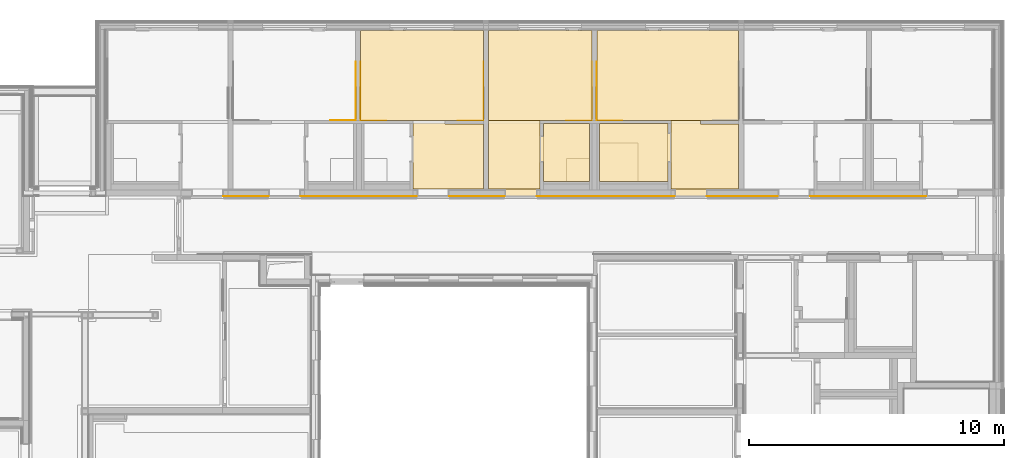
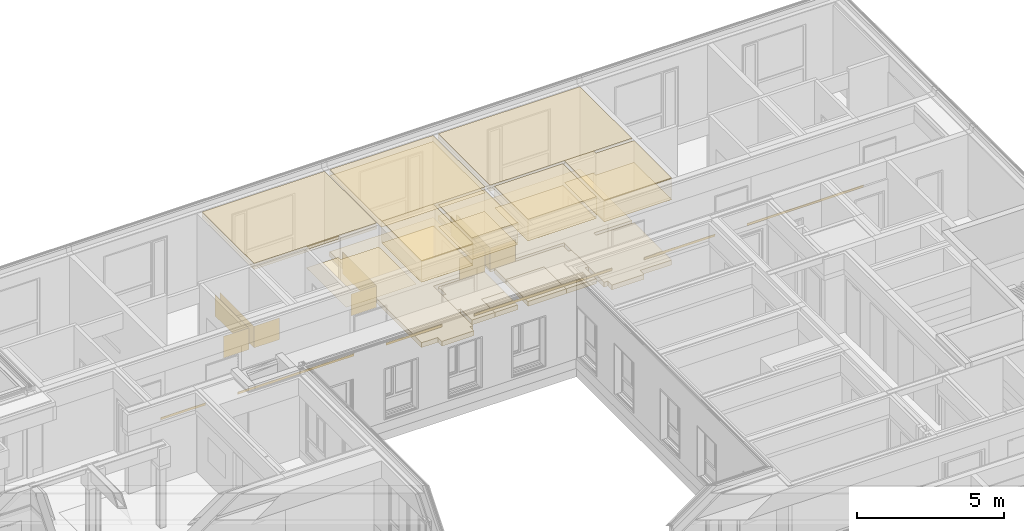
# One storey, part 189 of 207: 40 coverings.
"""IFC4 building model written with IfcOpenShell, lengths in metres."""

from ifc_helpers import new_model, entity, si_unit, converted_unit, derived_unit, frame, frame_2d, origin, origin_with_axes, place, context, subcontext, project, spatial, polyline, rectangle, outline, extrude, material, layer, layer_set, layer_usage, element, save


model = new_model("IFC4")

# Units and contexts
model_context = context("Model", 3, precision=1e-05, world=origin())
body_context = subcontext(model_context, "Body", "Model", "MODEL_VIEW")
ifc_project = project(units=[si_unit("LENGTHUNIT", "METRE"), si_unit("AREAUNIT", "SQUARE_METRE"), si_unit("VOLUMEUNIT", "CUBIC_METRE"), si_unit("MASSUNIT", "GRAM", prefix="KILO"), converted_unit("PLANEANGLEUNIT", "DEGREE", entity("IfcPlaneAngleMeasure", 0.0174532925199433), si_unit("PLANEANGLEUNIT", "RADIAN"), dimensions=[0, 0, 0, 0, 0, 0, 0]), derived_unit("THERMALTRANSMITTANCEUNIT", [(si_unit("POWERUNIT", "WATT"), 1), (si_unit("THERMODYNAMICTEMPERATUREUNIT", "KELVIN"), -1), (si_unit("LENGTHUNIT", "METRE"), -2)]), derived_unit("VOLUMETRICFLOWRATEUNIT", [(si_unit("LENGTHUNIT", "METRE"), 3), (converted_unit("TIMEUNIT", "hour", entity("IfcTimeMeasure", 3600.0), si_unit("TIMEUNIT", "SECOND"), dimensions=[0, 0, 1, 0, 0, 0, 0]), -1), (si_unit("LENGTHUNIT", "METRE"), -1)])], contexts=[model_context])

# Site, building, storey, space
site_placement = place(None, origin())
site = spatial("IfcSite", under=ifc_project, at=site_placement, Name="Psychiatrie Neubau Wunstorf", CompositionType="ELEMENT")
building_placement = place(site_placement, origin())
building = spatial("IfcBuilding", under=site, at=building_placement, Name="Neubau H2 Stationsgebäude", CompositionType="ELEMENT")
storey_placement = place(building_placement, frame((0.0, 0.0, -0.2)))
storey = spatial("IfcBuildingStorey", under=building, at=storey_placement, Name="H2 Ebene 0", CompositionType="ELEMENT", Elevation=-0.2)
space_1_placement = place(storey_placement, frame((74.055, 22.036, 0.0)))
space_1 = spatial("IfcSpace", under=storey, at=space_1_placement, Name="WUN-H2-E00-F09", CompositionType="ELEMENT")

# Covering
ifc_material_1 = material(Name="97")
ifc_layer_1 = layer(ifc_material_1, 0.001)
ifc_layer_set_1 = layer_set([ifc_layer_1])
ifc_layer_usage_1 = layer_usage(ifc_layer_set_1, "AXIS3", "POSITIVE", 0.0)
covering_1_placement = place(space_1_placement, frame((1.67000000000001, 3.08150000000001, 0.8)))
element("IfcCovering", 1, at=covering_1_placement, inside=space_1, material=ifc_layer_usage_1, Name="Handlauf", PredefinedType="CLADDING", context=body_context, shape_type="SweptSolid", body=[
    extrude(rectangle(XDim=1.765, YDim=0.1, at=frame_2d((-0.8825, 0.05), x_axis=(-1.0, 0.0))), frame((0.0, 0.0, 0.1), z_axis=(0.0, -1.0, 0.0), x_axis=(-1.0, 0.0, 0.0)), (0.0, 0.0, 1.0), 0.001),
    extrude(rectangle(XDim=0.1, YDim=5.4, at=frame_2d((-2.7, -0.05), x_axis=(0.0, -1.0))), frame((12.275, 0.0, 0.0), z_axis=(-3.36849889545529e-16, -1.0, -1.81898940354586e-14), x_axis=(-1.0, 3.36849889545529e-16, 0.0)), (0.0, 0.0, 1.0), 0.001),
    extrude(rectangle(XDim=0.1, YDim=2.78, at=frame_2d((-1.39, -0.05), x_axis=(0.0, -1.0))), frame((18.935, 0.0, 0.0), z_axis=(6.54312735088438e-16, -1.0, -5.45696821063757e-14), x_axis=(-1.0, -6.54312735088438e-16, 0.0)), (0.0, 0.0, 1.0), 0.001),
    extrude(rectangle(XDim=0.1, YDim=4.55, at=frame_2d((-2.275, -0.0500000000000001), x_axis=(0.0, -1.0))), frame((3.025, 0.0, 0.0), z_axis=(0.0, -1.0, 0.0), x_axis=(-1.0, 0.0, 0.0)), (0.0, 0.0, 1.0), 0.001),
    extrude(rectangle(XDim=0.1, YDim=4.55, at=frame_2d((-2.275, -0.05), x_axis=(0.0, -1.0))), frame((22.975, 0.0, 0.0), z_axis=(-3.99777890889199e-16, -1.0, -1.81898940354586e-14), x_axis=(-1.0, 3.99777890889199e-16, 0.0)), (0.0, 0.0, 1.0), 0.001),
    extrude(rectangle(XDim=0.1, YDim=2.18, at=frame_2d((-1.09, -0.05), x_axis=(0.0, -1.0))), frame((8.835, 0.0, 0.0), z_axis=(0.0, -1.0, 0.0), x_axis=(-1.0, 0.0, 0.0)), (0.0, 0.0, 1.0), 0.001),
])

# Space
space_2_placement = place(storey_placement, frame((90.45, 25.6995, 0.0)))
space_2 = spatial("IfcSpace", under=storey, at=space_2_placement, Name="WUN-H2-E00-072a", CompositionType="ELEMENT")

# Coverings
ifc_material_2 = material(Name="Fl1")
ifc_layer_2 = layer(ifc_material_2, 0.2)
ifc_layer_set_2 = layer_set([ifc_layer_2])
ifc_layer_usage_2 = layer_usage(ifc_layer_set_2, "AXIS3", "POSITIVE", 0.0)
covering_2_placement = place(space_2_placement, origin())
element("IfcCovering", 2, at=covering_2_placement, inside=space_2, material=ifc_layer_usage_2, Name="Fliesen", PredefinedType="FLOORING", context=body_context, shape_type="SweptSolid", body=[
    extrude(rectangle(XDim=0.125, YDim=1.135, at=frame_2d((-0.0625, -0.5675), x_axis=(-1.0, 0.0))), frame((2.8, 1.89000000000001, 0.0), z_axis=(0.0, 0.0, 1.0), x_axis=(1.0, 0.0, 0.0)), (0.0, 0.0, 1.0), 0.2),
    extrude(outline(polyline([(1.5, 0.0), (2.67499999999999, 0.0), (2.67500000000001, 2.26500000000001), (0.0, 2.26500000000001), (0.0, 1.5), (1.5, 1.5), (1.5, 0.0)])), origin_with_axes(), (0.0, 0.0, 1.0), 0.2),
])
ifc_material_3 = material(Name="Fl2")
ifc_layer_3 = layer(ifc_material_3, 0.2)
ifc_layer_set_3 = layer_set([ifc_layer_3])
ifc_layer_usage_3 = layer_usage(ifc_layer_set_3, "AXIS3", "POSITIVE", 0.0)
covering_3_placement = place(space_2_placement, origin())
element("IfcCovering", 3, at=covering_3_placement, inside=space_2, material=ifc_layer_usage_3, Name="Fliesen Mosaik", PredefinedType="FLOORING", context=body_context, shape_type="SweptSolid", body=[
    extrude(rectangle(XDim=1.5, YDim=1.5, at=frame_2d((0.75, 0.75), x_axis=(1.0, 0.0))), origin_with_axes(), (0.0, 0.0, 1.0), 0.2),
])
ifc_material_4 = material()
ifc_layer_4 = layer(ifc_material_4, 0.036)
ifc_layer_set_4 = layer_set([ifc_layer_4])
ifc_layer_usage_4 = layer_usage(ifc_layer_set_4, "AXIS3", "POSITIVE", 0.0)
covering_4_placement = place(space_2_placement, frame((0.0, 0.0, 3.6)))
element("IfcCovering", 4, at=covering_4_placement, inside=space_2, material=ifc_layer_usage_4, Name="Gipsfaserplatten 2-lagig (BSK)", PredefinedType="CEILING", context=body_context, shape_type="SweptSolid", body=[
    extrude(rectangle(XDim=2.675, YDim=2.26500000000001, at=frame_2d((1.33749999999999, 1.1325), x_axis=(1.0, 0.0))), frame((0.0, 2.26500000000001, 0.0), z_axis=(0.0, 0.0, -1.0), x_axis=(1.0, 0.0, 0.0)), (0.0, 0.0, 1.0), 0.036),
])
ifc_material_5 = material(Name="Installationshöhe")
ifc_layer_5 = layer(ifc_material_5, 0.764)
ifc_layer_set_5 = layer_set([ifc_layer_5])
ifc_layer_usage_5 = layer_usage(ifc_layer_set_5, "AXIS3", "POSITIVE", 0.0)
covering_5_placement = place(space_2_placement, frame((0.0, 0.0, 3.564)))
element("IfcCovering", 5, at=covering_5_placement, inside=space_2, material=ifc_layer_usage_5, Name="Gipsfaserplatten 2-lagig (BSK)", PredefinedType="CEILING", context=body_context, shape_type="SweptSolid", body=[
    extrude(rectangle(XDim=2.675, YDim=2.26500000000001, at=frame_2d((1.33749999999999, 1.1325), x_axis=(1.0, 0.0))), frame((0.0, 2.26500000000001, 0.0), z_axis=(0.0, 0.0, -1.0), x_axis=(1.0, 0.0, 0.0)), (0.0, 0.0, 1.0), 0.764),
])
ifc_material_6 = material(Name="B")
ifc_layer_6 = layer(ifc_material_6, 0.1)
ifc_layer_set_6 = layer_set([ifc_layer_6])
ifc_layer_usage_6 = layer_usage(ifc_layer_set_6, "AXIS3", "POSITIVE", 0.0)
covering_6_placement = place(space_2_placement, frame((0.0, 0.0, 2.8)))
element("IfcCovering", 6, at=covering_6_placement, inside=space_2, material=ifc_layer_usage_6, Name="Gipskarton, imprägniert", PredefinedType="CEILING", context=body_context, shape_type="SweptSolid", body=[
    extrude(rectangle(XDim=2.675, YDim=2.26500000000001, at=frame_2d((1.33749999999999, 1.1325), x_axis=(1.0, 0.0))), frame((0.0, 2.26500000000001, 0.0), z_axis=(0.0, 0.0, -1.0), x_axis=(1.0, 0.0, 0.0)), (0.0, 0.0, 1.0), 0.1),
])
ifc_material_7 = material(Name="D1")
ifc_layer_7 = layer(ifc_material_7, 0.001)
ifc_layer_set_7 = layer_set([ifc_layer_7])
ifc_layer_usage_7 = layer_usage(ifc_layer_set_7, "AXIS3", "POSITIVE", 0.0)
covering_7_placement = place(space_2_placement, frame((0.0, 0.0, 2.7)))
element("IfcCovering", 7, at=covering_7_placement, inside=space_2, material=ifc_layer_usage_7, Name="Gipsfaserplatten 2-lagig (BSK)", PredefinedType="CEILING", context=body_context, shape_type="SweptSolid", body=[
    extrude(rectangle(XDim=2.675, YDim=2.26500000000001, at=frame_2d((1.33749999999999, 1.1325), x_axis=(1.0, 0.0))), frame((0.0, 2.26500000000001, 0.0), z_axis=(0.0, 0.0, -1.0), x_axis=(1.0, 0.0, 0.0)), (0.0, 0.0, 1.0), 0.001),
])

# Space
space_3_placement = place(storey_placement, frame((88.25, 25.6995, 0.0)))
space_3 = spatial("IfcSpace", under=storey, at=space_3_placement, Name="WUN-H2-E00-071a", CompositionType="ELEMENT")

# Coverings
ifc_material_8 = material(Name="Fl1")
ifc_layer_8 = layer(ifc_material_8, 0.2)
ifc_layer_set_8 = layer_set([ifc_layer_8])
ifc_layer_usage_8 = layer_usage(ifc_layer_set_8, "AXIS3", "POSITIVE", 0.0)
covering_8_placement = place(space_3_placement, frame((-0.124999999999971, 0.0, 0.0)))
element("IfcCovering", 8, at=covering_8_placement, inside=space_3, material=ifc_layer_usage_8, Name="Fliesen", PredefinedType="FLOORING", context=body_context, shape_type="SweptSolid", body=[
    extrude(rectangle(XDim=0.125, YDim=1.01, at=frame_2d((0.0625, 0.505), x_axis=(1.0, 0.0))), frame((0.0, 0.755000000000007, 0.0), z_axis=(0.0, 0.0, 1.0), x_axis=(1.0, 0.0, 0.0)), (0.0, 0.0, 1.0), 0.2),
    extrude(outline(polyline([(0.0, 0.0), (0.900000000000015, 0.0), (0.900000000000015, 0.900000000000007), (1.80000000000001, 0.900000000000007), (1.80000000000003, 2.26500000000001), (0.0, 2.26500000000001), (0.0, 0.0)])), frame((0.124999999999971, 0.0, 0.0), z_axis=(0.0, 0.0, 1.0), x_axis=(1.0, 0.0, 0.0)), (0.0, 0.0, 1.0), 0.2),
])
ifc_material_9 = material(Name="Fl2")
ifc_layer_9 = layer(ifc_material_9, 0.2)
ifc_layer_set_9 = layer_set([ifc_layer_9])
ifc_layer_usage_9 = layer_usage(ifc_layer_set_9, "AXIS3", "POSITIVE", 0.0)
covering_9_placement = place(space_3_placement, frame((0.900000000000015, 0.0, 0.0)))
element("IfcCovering", 9, at=covering_9_placement, inside=space_3, material=ifc_layer_usage_9, Name="Fliesen Mosaik", PredefinedType="FLOORING", context=body_context, shape_type="SweptSolid", body=[
    extrude(rectangle(XDim=0.9, YDim=0.9, at=frame_2d((-0.45, 0.45), x_axis=(0.0, 1.0))), frame((0.9, 0.0, 0.0), z_axis=(0.0, 0.0, 1.0), x_axis=(1.0, 0.0, 0.0)), (0.0, 0.0, 1.0), 0.2),
])
ifc_material_10 = material()
ifc_layer_10 = layer(ifc_material_10, 0.036)
ifc_layer_set_10 = layer_set([ifc_layer_10])
ifc_layer_usage_10 = layer_usage(ifc_layer_set_10, "AXIS3", "POSITIVE", 0.0)
covering_10_placement = place(space_3_placement, frame((0.0, 0.0, 3.6)))
element("IfcCovering", 10, at=covering_10_placement, inside=space_3, material=ifc_layer_usage_10, Name="Gipsfaserplatten 2-lagig (BSK)", PredefinedType="CEILING", context=body_context, shape_type="SweptSolid", body=[
    extrude(rectangle(XDim=1.8, YDim=2.26500000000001, at=frame_2d((0.899999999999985, 1.1325), x_axis=(1.0, 0.0))), frame((0.0, 2.26500000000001, 0.0), z_axis=(0.0, 0.0, -1.0), x_axis=(1.0, 0.0, 0.0)), (0.0, 0.0, 1.0), 0.036),
])
ifc_material_11 = material(Name="Installationshöhe")
ifc_layer_11 = layer(ifc_material_11, 0.764)
ifc_layer_set_11 = layer_set([ifc_layer_11])
ifc_layer_usage_11 = layer_usage(ifc_layer_set_11, "AXIS3", "POSITIVE", 0.0)
covering_11_placement = place(space_3_placement, frame((0.0, 0.0, 3.564)))
element("IfcCovering", 11, at=covering_11_placement, inside=space_3, material=ifc_layer_usage_11, Name="Gipsfaserplatten 2-lagig (BSK)", PredefinedType="CEILING", context=body_context, shape_type="SweptSolid", body=[
    extrude(rectangle(XDim=1.8, YDim=2.26500000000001, at=frame_2d((0.899999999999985, 1.1325), x_axis=(1.0, 0.0))), frame((0.0, 2.26500000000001, 0.0), z_axis=(0.0, 0.0, -1.0), x_axis=(1.0, 0.0, 0.0)), (0.0, 0.0, 1.0), 0.764),
])
ifc_material_12 = material(Name="B")
ifc_layer_12 = layer(ifc_material_12, 0.1)
ifc_layer_set_12 = layer_set([ifc_layer_12])
ifc_layer_usage_12 = layer_usage(ifc_layer_set_12, "AXIS3", "POSITIVE", 0.0)
covering_12_placement = place(space_3_placement, frame((0.0, 0.0, 2.8)))
element("IfcCovering", 12, at=covering_12_placement, inside=space_3, material=ifc_layer_usage_12, Name="Gipskarton, imprägniert", PredefinedType="CEILING", context=body_context, shape_type="SweptSolid", body=[
    extrude(rectangle(XDim=1.8, YDim=2.26500000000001, at=frame_2d((0.899999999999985, 1.1325), x_axis=(1.0, 0.0))), frame((0.0, 2.26500000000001, 0.0), z_axis=(0.0, 0.0, -1.0), x_axis=(1.0, 0.0, 0.0)), (0.0, 0.0, 1.0), 0.1),
])
ifc_material_13 = material(Name="D1")
ifc_layer_13 = layer(ifc_material_13, 0.001)
ifc_layer_set_13 = layer_set([ifc_layer_13])
ifc_layer_usage_13 = layer_usage(ifc_layer_set_13, "AXIS3", "POSITIVE", 0.0)
covering_13_placement = place(space_3_placement, frame((0.0, 0.0, 2.7)))
element("IfcCovering", 13, at=covering_13_placement, inside=space_3, material=ifc_layer_usage_13, Name="Gipsfaserplatten 2-lagig (BSK)", PredefinedType="CEILING", context=body_context, shape_type="SweptSolid", body=[
    extrude(rectangle(XDim=1.8, YDim=2.26500000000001, at=frame_2d((0.899999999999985, 1.1325), x_axis=(1.0, 0.0))), frame((0.0, 2.26500000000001, 0.0), z_axis=(0.0, 0.0, -1.0), x_axis=(1.0, 0.0, 0.0)), (0.0, 0.0, 1.0), 0.001),
])

# Space
space_4_placement = place(storey_placement, frame((76.1, 25.3895, 0.0)))
space_4 = spatial("IfcSpace", under=storey, at=space_4_placement, Name="WUN-H2-E00-069", CompositionType="ELEMENT")

# Covering
ifc_material_14 = material(Name="84")
ifc_layer_14 = layer(ifc_material_14, 0.001)
ifc_layer_set_14 = layer_set([ifc_layer_14])
ifc_layer_usage_14 = layer_usage(ifc_layer_set_14, "AXIS3", "POSITIVE", 0.0)
covering_14_placement = place(space_4_placement, frame((3.8, 2.69999999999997, 0.1)))
element("IfcCovering", 14, at=covering_14_placement, inside=space_4, material=ifc_layer_usage_14, Name="Acrobyn", PredefinedType="CLADDING", context=body_context, shape_type="SweptSolid", body=[
    extrude(rectangle(XDim=0.9, YDim=2.3, at=frame_2d((-1.15, -0.45), x_axis=(0.0, -1.0))), frame((1.0, 2.3, 0.0), z_axis=(-1.0, 0.0, 0.0), x_axis=(0.0, 1.0, 0.0)), (0.0, 0.0, 1.0), 0.001),
    extrude(rectangle(XDim=0.9, YDim=1.0, at=frame_2d((-0.5, -0.45), x_axis=(0.0, -1.0))), frame((1.0, 0.0, 0.0), z_axis=(0.0, 1.0, 0.0), x_axis=(1.0, 0.0, 0.0)), (0.0, 0.0, 1.0), 0.001),
])

# Space
space_5_placement = place(storey_placement, frame((81.1, 25.3895, 0.0)))
space_5 = spatial("IfcSpace", under=storey, at=space_5_placement, Name="WUN-H2-E00-070", CompositionType="ELEMENT")

# Coverings
ifc_material_15 = material(Name="84")
ifc_layer_15 = layer(ifc_material_15, 0.001)
ifc_layer_set_15 = layer_set([ifc_layer_15])
ifc_layer_usage_15 = layer_usage(ifc_layer_set_15, "AXIS3", "POSITIVE", 0.0)
covering_15_placement = place(space_5_placement, frame((0.0, 2.69999999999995, 0.1)))
element("IfcCovering", 15, at=covering_15_placement, inside=space_5, material=ifc_layer_usage_15, Name="Acrobyn", PredefinedType="CLADDING", context=body_context, shape_type="SweptSolid", body=[
    extrude(rectangle(XDim=2.3, YDim=0.9, at=frame_2d((1.15, -0.45), x_axis=(1.0, 0.0))), frame((0.0, 2.3, 0.0), z_axis=(1.0, 0.0, 0.0), x_axis=(0.0, -1.0, 0.0)), (0.0, 0.0, 1.0), 0.001),
    extrude(rectangle(XDim=1.0, YDim=0.9, at=frame_2d((0.5, -0.45), x_axis=(1.0, 0.0))), frame((0.0, 0.0, 0.0), z_axis=(0.0, 1.0, 0.0), x_axis=(1.0, 0.0, 0.0)), (0.0, 0.0, 1.0), 0.001),
])
ifc_material_16 = material(Name="84")
ifc_layer_16 = layer(ifc_material_16, 0.001)
ifc_layer_set_16 = layer_set([ifc_layer_16])
ifc_layer_usage_16 = layer_usage(ifc_layer_set_16, "AXIS3", "POSITIVE", 0.0)
covering_16_placement = place(space_5_placement, frame((3.79999999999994, 2.69999999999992, 0.1)))
element("IfcCovering", 16, at=covering_16_placement, inside=space_5, material=ifc_layer_usage_16, Name="Acrobyn", PredefinedType="CLADDING", context=body_context, shape_type="SweptSolid", body=[
    extrude(rectangle(XDim=0.9, YDim=2.3, at=frame_2d((-1.15, -0.45), x_axis=(0.0, -1.0))), frame((1.0, 2.3, 0.0), z_axis=(-1.0, 0.0, 0.0), x_axis=(0.0, 1.0, 0.0)), (0.0, 0.0, 1.0), 0.001),
    extrude(rectangle(XDim=0.9, YDim=1.0, at=frame_2d((-0.5, -0.45), x_axis=(0.0, -1.0))), frame((1.0, 0.0, 0.0), z_axis=(0.0, 1.0, 0.0), x_axis=(1.0, 0.0, 0.0)), (0.0, 0.0, 1.0), 0.001),
])
ifc_material_17 = material(Name="D1")
ifc_layer_17 = layer(ifc_material_17, 0.001)
ifc_layer_set_17 = layer_set([ifc_layer_17])
ifc_layer_usage_17 = layer_usage(ifc_layer_set_17, "AXIS3", "POSITIVE", 0.0)
covering_17_placement = place(space_5_placement, frame((2.05, 0.0, 2.7)))
element("IfcCovering", 17, at=covering_17_placement, inside=space_5, material=ifc_layer_usage_17, Name="Gipsfaserplatten 2-lagig (BSK)", PredefinedType="CEILING", context=body_context, shape_type="SweptSolid", body=[
    extrude(outline(polyline([(2.75, 2.69999999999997), (0.0, 2.69999999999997), (0.0, 0.0), (1.24999999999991, 0.0), (1.24999999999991, 0.149999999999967), (2.74999999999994, 0.149999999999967), (2.75, 2.69999999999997)])), frame((0.0, 2.69999999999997, 0.0), z_axis=(0.0, 0.0, -1.0), x_axis=(1.0, 0.0, 0.0)), (0.0, 0.0, 1.0), 0.001),
])
ifc_material_18 = material()
ifc_layer_18 = layer(ifc_material_18, 0.036)
ifc_layer_set_18 = layer_set([ifc_layer_18])
ifc_layer_usage_18 = layer_usage(ifc_layer_set_18, "AXIS3", "POSITIVE", 0.0)
covering_18_placement = place(space_5_placement, frame((0.0, 2.69999999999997, 3.6)))
element("IfcCovering", 18, at=covering_18_placement, inside=space_5, material=ifc_layer_usage_18, Name="Gipsfaserplatten 2-lagig (BSK)", PredefinedType="CEILING", context=body_context, shape_type="SweptSolid", body=[
    extrude(rectangle(XDim=4.79999999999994, YDim=3.52450000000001, at=frame_2d((-2.39999999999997, -1.76224999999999), x_axis=(-1.0, 6.82121026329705e-15))), frame((4.79999999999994, 0.0, 0.0), z_axis=(0.0, 0.0, -1.0), x_axis=(1.0, 0.0, 0.0)), (0.0, 0.0, 1.0), 0.036),
])
ifc_material_19 = material(Name="Installationshöhe")
ifc_layer_19 = layer(ifc_material_19, 0.114)
ifc_layer_set_19 = layer_set([ifc_layer_19])
ifc_layer_usage_19 = layer_usage(ifc_layer_set_19, "AXIS3", "POSITIVE", 0.0)
covering_19_placement = place(space_5_placement, frame((0.0, 2.69999999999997, 3.564)))
element("IfcCovering", 19, at=covering_19_placement, inside=space_5, material=ifc_layer_usage_19, Name="Gipsfaserplatten 2-lagig (BSK)", PredefinedType="CEILING", context=body_context, shape_type="SweptSolid", body=[
    extrude(rectangle(XDim=4.79999999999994, YDim=3.52450000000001, at=frame_2d((-2.39999999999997, -1.76224999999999), x_axis=(-1.0, 6.82121026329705e-15))), frame((4.79999999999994, 0.0, 0.0), z_axis=(0.0, 0.0, -1.0), x_axis=(1.0, 0.0, 0.0)), (0.0, 0.0, 1.0), 0.114),
])
ifc_material_20 = material(Name="A1")
ifc_layer_20 = layer(ifc_material_20, 0.1)
ifc_layer_set_20 = layer_set([ifc_layer_20])
ifc_layer_usage_20 = layer_usage(ifc_layer_set_20, "AXIS3", "POSITIVE", 0.0)
covering_20_placement = place(space_5_placement, frame((0.0, 2.69999999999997, 3.45)))
element("IfcCovering", 20, at=covering_20_placement, inside=space_5, material=ifc_layer_usage_20, Name="Gipsfaserplatten 2-lagig (BSK)", PredefinedType="CEILING", context=body_context, shape_type="SweptSolid", body=[
    extrude(rectangle(XDim=4.79999999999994, YDim=3.52450000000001, at=frame_2d((-2.39999999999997, -1.76224999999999), x_axis=(-1.0, 6.82121026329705e-15))), frame((4.79999999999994, 0.0, 0.0), z_axis=(0.0, 0.0, -1.0), x_axis=(1.0, 0.0, 0.0)), (0.0, 0.0, 1.0), 0.1),
])
ifc_material_21 = material(Name="D1")
ifc_layer_21 = layer(ifc_material_21, 0.001)
ifc_layer_set_21 = layer_set([ifc_layer_21])
ifc_layer_usage_21 = layer_usage(ifc_layer_set_21, "AXIS3", "POSITIVE", 0.0)
covering_21_placement = place(space_5_placement, frame((0.0, 2.69999999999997, 3.35)))
element("IfcCovering", 21, at=covering_21_placement, inside=space_5, material=ifc_layer_usage_21, Name="Gipsfaserplatten 2-lagig (BSK)", PredefinedType="CEILING", context=body_context, shape_type="SweptSolid", body=[
    extrude(rectangle(XDim=4.79999999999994, YDim=3.52450000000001, at=frame_2d((-2.39999999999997, -1.76224999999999), x_axis=(-1.0, 6.82121026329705e-15))), frame((4.79999999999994, 0.0, 0.0), z_axis=(0.0, 0.0, -1.0), x_axis=(1.0, 0.0, 0.0)), (0.0, 0.0, 1.0), 0.001),
])

# Space
space_6_placement = place(storey_placement, frame((86.1, 25.3895, 0.0)))
space_6 = spatial("IfcSpace", under=storey, at=space_6_placement, Name="WUN-H2-E00-071", CompositionType="ELEMENT")

# Coverings
ifc_material_22 = material(Name="84")
ifc_layer_22 = layer(ifc_material_22, 0.001)
ifc_layer_set_22 = layer_set([ifc_layer_22])
ifc_layer_usage_22 = layer_usage(ifc_layer_set_22, "AXIS3", "POSITIVE", 0.0)
covering_22_placement = place(space_6_placement, frame((3.05, 2.69999999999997, 0.1)))
element("IfcCovering", 22, at=covering_22_placement, inside=space_6, material=ifc_layer_usage_22, Name="Acrobyn", PredefinedType="CLADDING", context=body_context, shape_type="SweptSolid", body=[
    extrude(rectangle(XDim=0.9, YDim=2.3, at=frame_2d((-1.15, -0.45), x_axis=(0.0, -1.0))), frame((1.0, 2.3, 0.0), z_axis=(-1.0, 0.0, 0.0), x_axis=(0.0, 1.0, 0.0)), (0.0, 0.0, 1.0), 0.001),
    extrude(rectangle(XDim=0.9, YDim=1.0, at=frame_2d((-0.5, -0.45), x_axis=(0.0, -1.0))), frame((1.0, 0.0, 0.0), z_axis=(0.0, 1.0, 0.0), x_axis=(1.0, 0.0, 0.0)), (0.0, 0.0, 1.0), 0.001),
])
ifc_material_23 = material(Name="Ku1")
ifc_layer_23 = layer(ifc_material_23, 0.2)
ifc_layer_set_23 = layer_set([ifc_layer_23])
ifc_layer_usage_23 = layer_usage(ifc_layer_set_23, "AXIS3", "POSITIVE", 0.0)
covering_23_placement = place(space_6_placement, frame((0.0, -0.272000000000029, 0.0)))
element("IfcCovering", 23, at=covering_23_placement, inside=space_6, material=ifc_layer_usage_23, Name="PVC Bahnenware Holzoptik", PredefinedType="FLOORING", context=body_context, shape_type="SweptSolid", body=[
    extrude(rectangle(XDim=0.272, YDim=1.26, at=frame_2d((0.63, -0.136), x_axis=(0.0, -1.0))), frame((0.64, 0.272, 0.0), z_axis=(0.0, 0.0, 1.0), x_axis=(1.0, 0.0, 0.0)), (0.0, 0.0, 1.0), 0.2),
    extrude(outline(polyline([(2.025, 2.69999999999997), (4.05, 2.69999999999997), (4.05, 6.22449999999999), (0.0, 6.22449999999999), (0.0, 0.0), (2.02499999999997, 0.0), (2.025, 2.69999999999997)])), frame((0.0, 0.272000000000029, 0.0), z_axis=(0.0, 0.0, 1.0), x_axis=(1.0, 0.0, 0.0)), (0.0, 0.0, 1.0), 0.2),
])
ifc_material_24 = material()
ifc_layer_24 = layer(ifc_material_24, 0.036)
ifc_layer_set_24 = layer_set([ifc_layer_24])
ifc_layer_usage_24 = layer_usage(ifc_layer_set_24, "AXIS3", "POSITIVE", 0.0)
covering_24_placement = place(space_6_placement, frame((0.0, 2.69999999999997, 3.6)))
element("IfcCovering", 24, at=covering_24_placement, inside=space_6, material=ifc_layer_usage_24, Name="Gipsfaserplatten 2-lagig (BSK)", PredefinedType="CEILING", context=body_context, shape_type="SweptSolid", body=[
    extrude(rectangle(XDim=4.05, YDim=3.52450000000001, at=frame_2d((-2.025, -1.76225000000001), x_axis=(-1.0, 0.0))), frame((4.05, 0.0, 0.0), z_axis=(0.0, 0.0, -1.0), x_axis=(1.0, 0.0, 0.0)), (0.0, 0.0, 1.0), 0.036),
])
ifc_material_25 = material(Name="Installationshöhe")
ifc_layer_25 = layer(ifc_material_25, 0.114)
ifc_layer_set_25 = layer_set([ifc_layer_25])
ifc_layer_usage_25 = layer_usage(ifc_layer_set_25, "AXIS3", "POSITIVE", 0.0)
covering_25_placement = place(space_6_placement, frame((0.0, 2.69999999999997, 3.564)))
element("IfcCovering", 25, at=covering_25_placement, inside=space_6, material=ifc_layer_usage_25, Name="Gipsfaserplatten 2-lagig (BSK)", PredefinedType="CEILING", context=body_context, shape_type="SweptSolid", body=[
    extrude(rectangle(XDim=4.05, YDim=3.52450000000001, at=frame_2d((-2.025, -1.76225000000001), x_axis=(-1.0, 0.0))), frame((4.05, 0.0, 0.0), z_axis=(0.0, 0.0, -1.0), x_axis=(1.0, 0.0, 0.0)), (0.0, 0.0, 1.0), 0.114),
])
ifc_material_26 = material(Name="A1")
ifc_layer_26 = layer(ifc_material_26, 0.1)
ifc_layer_set_26 = layer_set([ifc_layer_26])
ifc_layer_usage_26 = layer_usage(ifc_layer_set_26, "AXIS3", "POSITIVE", 0.0)
covering_26_placement = place(space_6_placement, frame((0.0, 2.69999999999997, 3.45)))
element("IfcCovering", 26, at=covering_26_placement, inside=space_6, material=ifc_layer_usage_26, Name="Gipsfaserplatten 2-lagig (BSK)", PredefinedType="CEILING", context=body_context, shape_type="SweptSolid", body=[
    extrude(rectangle(XDim=4.05, YDim=3.52450000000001, at=frame_2d((-2.025, -1.76225000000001), x_axis=(-1.0, 0.0))), frame((4.05, 0.0, 0.0), z_axis=(0.0, 0.0, -1.0), x_axis=(1.0, 0.0, 0.0)), (0.0, 0.0, 1.0), 0.1),
])
ifc_material_27 = material(Name="D1")
ifc_layer_27 = layer(ifc_material_27, 0.001)
ifc_layer_set_27 = layer_set([ifc_layer_27])
ifc_layer_usage_27 = layer_usage(ifc_layer_set_27, "AXIS3", "POSITIVE", 0.0)
covering_27_placement = place(space_6_placement, frame((0.0, 2.69999999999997, 3.35)))
element("IfcCovering", 27, at=covering_27_placement, inside=space_6, material=ifc_layer_usage_27, Name="Gipsfaserplatten 2-lagig (BSK)", PredefinedType="CEILING", context=body_context, shape_type="SweptSolid", body=[
    extrude(rectangle(XDim=4.05, YDim=3.52450000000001, at=frame_2d((-2.025, -1.76225000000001), x_axis=(-1.0, 0.0))), frame((4.05, 0.0, 0.0), z_axis=(0.0, 0.0, -1.0), x_axis=(1.0, 0.0, 0.0)), (0.0, 0.0, 1.0), 0.001),
])
ifc_material_28 = material()
ifc_layer_28 = layer(ifc_material_28, 0.036)
ifc_layer_set_28 = layer_set([ifc_layer_28])
ifc_layer_usage_28 = layer_usage(ifc_layer_set_28, "AXIS3", "POSITIVE", 0.0)
covering_28_placement = place(space_6_placement, frame((0.0, 0.0, 3.6)))
element("IfcCovering", 28, at=covering_28_placement, inside=space_6, material=ifc_layer_usage_28, Name="Gipsfaserplatten 2-lagig (BSK)", PredefinedType="CEILING", context=body_context, shape_type="SweptSolid", body=[
    extrude(rectangle(XDim=2.025, YDim=2.69999999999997, at=frame_2d((1.0125, 1.34999999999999), x_axis=(1.0, 0.0))), frame((0.0, 2.69999999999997, 0.0), z_axis=(0.0, 0.0, -1.0), x_axis=(1.0, 0.0, 0.0)), (0.0, 0.0, 1.0), 0.036),
])
ifc_material_29 = material(Name="Installationshöhe")
ifc_layer_29 = layer(ifc_material_29, 0.764)
ifc_layer_set_29 = layer_set([ifc_layer_29])
ifc_layer_usage_29 = layer_usage(ifc_layer_set_29, "AXIS3", "POSITIVE", 0.0)
covering_29_placement = place(space_6_placement, frame((0.0, 0.0, 3.564)))
element("IfcCovering", 29, at=covering_29_placement, inside=space_6, material=ifc_layer_usage_29, Name="Gipsfaserplatten 2-lagig (BSK)", PredefinedType="CEILING", context=body_context, shape_type="SweptSolid", body=[
    extrude(rectangle(XDim=2.025, YDim=2.69999999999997, at=frame_2d((1.0125, 1.34999999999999), x_axis=(1.0, 0.0))), frame((0.0, 2.69999999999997, 0.0), z_axis=(0.0, 0.0, -1.0), x_axis=(1.0, 0.0, 0.0)), (0.0, 0.0, 1.0), 0.764),
])
ifc_material_30 = material(Name="A1")
ifc_layer_30 = layer(ifc_material_30, 0.1)
ifc_layer_set_30 = layer_set([ifc_layer_30])
ifc_layer_usage_30 = layer_usage(ifc_layer_set_30, "AXIS3", "POSITIVE", 0.0)
covering_30_placement = place(space_6_placement, frame((0.0, 0.0, 2.8)))
element("IfcCovering", 30, at=covering_30_placement, inside=space_6, material=ifc_layer_usage_30, Name="Gipsfaserplatten 2-lagig (BSK)", PredefinedType="CEILING", context=body_context, shape_type="SweptSolid", body=[
    extrude(rectangle(XDim=2.025, YDim=2.69999999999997, at=frame_2d((1.0125, 1.34999999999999), x_axis=(1.0, 0.0))), frame((0.0, 2.69999999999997, 0.0), z_axis=(0.0, 0.0, -1.0), x_axis=(1.0, 0.0, 0.0)), (0.0, 0.0, 1.0), 0.1),
])
ifc_material_31 = material(Name="D1")
ifc_layer_31 = layer(ifc_material_31, 0.001)
ifc_layer_set_31 = layer_set([ifc_layer_31])
ifc_layer_usage_31 = layer_usage(ifc_layer_set_31, "AXIS3", "POSITIVE", 0.0)
covering_31_placement = place(space_6_placement, frame((0.0, 0.0, 2.7)))
element("IfcCovering", 31, at=covering_31_placement, inside=space_6, material=ifc_layer_usage_31, Name="Gipsfaserplatten 2-lagig (BSK)", PredefinedType="CEILING", context=body_context, shape_type="SweptSolid", body=[
    extrude(rectangle(XDim=2.025, YDim=2.69999999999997, at=frame_2d((1.0125, 1.34999999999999), x_axis=(1.0, 0.0))), frame((0.0, 2.69999999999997, 0.0), z_axis=(0.0, 0.0, -1.0), x_axis=(1.0, 0.0, 0.0)), (0.0, 0.0, 1.0), 0.001),
])

# Space
space_7_placement = place(storey_placement, frame((90.35, 25.3895, 0.0)))
space_7 = spatial("IfcSpace", under=storey, at=space_7_placement, Name="WUN-H2-E00-072", CompositionType="ELEMENT")

# Coverings
ifc_material_32 = material(Name="84")
ifc_layer_32 = layer(ifc_material_32, 0.001)
ifc_layer_set_32 = layer_set([ifc_layer_32])
ifc_layer_usage_32 = layer_usage(ifc_layer_set_32, "AXIS3", "POSITIVE", 0.0)
covering_32_placement = place(space_7_placement, frame((0.0, 2.69999999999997, 0.1)))
element("IfcCovering", 32, at=covering_32_placement, inside=space_7, material=ifc_layer_usage_32, Name="Acrobyn", PredefinedType="CLADDING", context=body_context, shape_type="SweptSolid", body=[
    extrude(rectangle(XDim=2.3, YDim=0.9, at=frame_2d((1.15, -0.45), x_axis=(1.0, 0.0))), frame((0.0, 2.3, 0.0), z_axis=(1.0, 0.0, 0.0), x_axis=(0.0, -1.0, 0.0)), (0.0, 0.0, 1.0), 0.001),
    extrude(rectangle(XDim=1.0, YDim=0.9, at=frame_2d((0.5, -0.45), x_axis=(1.0, 0.0))), frame((0.0, 0.0, 0.0), z_axis=(0.0, 1.0, 0.0), x_axis=(1.0, 0.0, 0.0)), (0.0, 0.0, 1.0), 0.001),
])
ifc_material_33 = material(Name="Ku1")
ifc_layer_33 = layer(ifc_material_33, 0.2)
ifc_layer_set_33 = layer_set([ifc_layer_33])
ifc_layer_usage_33 = layer_usage(ifc_layer_set_33, "AXIS3", "POSITIVE", 0.0)
covering_33_placement = place(space_7_placement, frame((0.0, -0.272000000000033, 0.0)))
element("IfcCovering", 33, at=covering_33_placement, inside=space_7, material=ifc_layer_usage_33, Name="PVC Bahnenware Holzoptik", PredefinedType="FLOORING", context=body_context, shape_type="SweptSolid", body=[
    extrude(rectangle(XDim=0.272, YDim=1.26, at=frame_2d((0.63, -0.136), x_axis=(0.0, -1.0))), frame((3.05, 0.272, 0.0), z_axis=(0.0, 0.0, 1.0), x_axis=(1.0, 0.0, 0.0)), (0.0, 0.0, 1.0), 0.2),
    extrude(outline(polyline([(2.9, 0.0), (5.54999999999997, 0.0), (5.54999999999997, 2.55), (4.04999999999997, 2.55), (4.04999999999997, 2.7), (5.54999999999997, 2.7), (5.55, 6.22449999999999), (0.0, 6.22449999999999), (0.0, 2.69999999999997), (2.9, 2.69999999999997), (2.9, 0.0)])), frame((0.0, 0.272000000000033, 0.0), z_axis=(0.0, 0.0, 1.0), x_axis=(1.0, 0.0, 0.0)), (0.0, 0.0, 1.0), 0.2),
])
ifc_material_34 = material()
ifc_layer_34 = layer(ifc_material_34, 0.036)
ifc_layer_set_34 = layer_set([ifc_layer_34])
ifc_layer_usage_34 = layer_usage(ifc_layer_set_34, "AXIS3", "POSITIVE", 0.0)
covering_34_placement = place(space_7_placement, frame((0.0, 2.69999999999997, 3.6)))
element("IfcCovering", 34, at=covering_34_placement, inside=space_7, material=ifc_layer_usage_34, Name="Gipsfaserplatten 2-lagig (BSK)", PredefinedType="CEILING", context=body_context, shape_type="SweptSolid", body=[
    extrude(rectangle(XDim=3.52450000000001, YDim=5.55, at=frame_2d((2.775, -1.76225000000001), x_axis=(0.0, -1.0))), frame((0.0, 0.0, 0.0), z_axis=(0.0, 0.0, -1.0), x_axis=(1.0, 0.0, 0.0)), (0.0, 0.0, 1.0), 0.036),
])
ifc_material_35 = material(Name="Installationshöhe")
ifc_layer_35 = layer(ifc_material_35, 0.114)
ifc_layer_set_35 = layer_set([ifc_layer_35])
ifc_layer_usage_35 = layer_usage(ifc_layer_set_35, "AXIS3", "POSITIVE", 0.0)
covering_35_placement = place(space_7_placement, frame((0.0, 2.69999999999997, 3.564)))
element("IfcCovering", 35, at=covering_35_placement, inside=space_7, material=ifc_layer_usage_35, Name="Gipsfaserplatten 2-lagig (BSK)", PredefinedType="CEILING", context=body_context, shape_type="SweptSolid", body=[
    extrude(rectangle(XDim=3.52450000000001, YDim=5.55, at=frame_2d((2.775, -1.76225000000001), x_axis=(0.0, -1.0))), frame((0.0, 0.0, 0.0), z_axis=(0.0, 0.0, -1.0), x_axis=(1.0, 0.0, 0.0)), (0.0, 0.0, 1.0), 0.114),
])
ifc_material_36 = material(Name="A1")
ifc_layer_36 = layer(ifc_material_36, 0.1)
ifc_layer_set_36 = layer_set([ifc_layer_36])
ifc_layer_usage_36 = layer_usage(ifc_layer_set_36, "AXIS3", "POSITIVE", 0.0)
covering_36_placement = place(space_7_placement, frame((0.0, 2.69999999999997, 3.45)))
element("IfcCovering", 36, at=covering_36_placement, inside=space_7, material=ifc_layer_usage_36, Name="Gipsfaserplatten 2-lagig (BSK)", PredefinedType="CEILING", context=body_context, shape_type="SweptSolid", body=[
    extrude(rectangle(XDim=3.52450000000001, YDim=5.55, at=frame_2d((2.775, -1.76225000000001), x_axis=(0.0, -1.0))), frame((0.0, 0.0, 0.0), z_axis=(0.0, 0.0, -1.0), x_axis=(1.0, 0.0, 0.0)), (0.0, 0.0, 1.0), 0.1),
])
ifc_material_37 = material()
ifc_layer_37 = layer(ifc_material_37, 0.036)
ifc_layer_set_37 = layer_set([ifc_layer_37])
ifc_layer_usage_37 = layer_usage(ifc_layer_set_37, "AXIS3", "POSITIVE", 0.0)
covering_37_placement = place(space_7_placement, frame((2.9, 0.0, 3.6)))
element("IfcCovering", 37, at=covering_37_placement, inside=space_7, material=ifc_layer_usage_37, Name="Gipsfaserplatten 2-lagig (BSK)", PredefinedType="CEILING", context=body_context, shape_type="SweptSolid", body=[
    extrude(outline(polyline([(2.65, 2.69999999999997), (0.0, 2.69999999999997), (0.0, 0.0), (1.14999999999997, 0.0), (1.14999999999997, 0.149999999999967), (2.64999999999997, 0.149999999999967), (2.65, 2.69999999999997)])), frame((0.0, 2.69999999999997, 0.0), z_axis=(0.0, 0.0, -1.0), x_axis=(1.0, 0.0, 0.0)), (0.0, 0.0, 1.0), 0.036),
])
ifc_material_38 = material(Name="Installationshöhe")
ifc_layer_38 = layer(ifc_material_38, 0.764)
ifc_layer_set_38 = layer_set([ifc_layer_38])
ifc_layer_usage_38 = layer_usage(ifc_layer_set_38, "AXIS3", "POSITIVE", 0.0)
covering_38_placement = place(space_7_placement, frame((2.9, 0.0, 3.564)))
element("IfcCovering", 38, at=covering_38_placement, inside=space_7, material=ifc_layer_usage_38, Name="Gipsfaserplatten 2-lagig (BSK)", PredefinedType="CEILING", context=body_context, shape_type="SweptSolid", body=[
    extrude(outline(polyline([(2.65, 2.69999999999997), (0.0, 2.69999999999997), (0.0, 0.0), (1.14999999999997, 0.0), (1.14999999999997, 0.149999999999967), (2.64999999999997, 0.149999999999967), (2.65, 2.69999999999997)])), frame((0.0, 2.69999999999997, 0.0), z_axis=(0.0, 0.0, -1.0), x_axis=(1.0, 0.0, 0.0)), (0.0, 0.0, 1.0), 0.764),
])
ifc_material_39 = material(Name="A1")
ifc_layer_39 = layer(ifc_material_39, 0.1)
ifc_layer_set_39 = layer_set([ifc_layer_39])
ifc_layer_usage_39 = layer_usage(ifc_layer_set_39, "AXIS3", "POSITIVE", 0.0)
covering_39_placement = place(space_7_placement, frame((2.9, 0.0, 2.8)))
element("IfcCovering", 39, at=covering_39_placement, inside=space_7, material=ifc_layer_usage_39, Name="Gipsfaserplatten 2-lagig (BSK)", PredefinedType="CEILING", context=body_context, shape_type="SweptSolid", body=[
    extrude(outline(polyline([(2.65, 2.69999999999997), (0.0, 2.69999999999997), (0.0, 0.0), (1.14999999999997, 0.0), (1.14999999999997, 0.149999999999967), (2.64999999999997, 0.149999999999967), (2.65, 2.69999999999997)])), frame((0.0, 2.69999999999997, 0.0), z_axis=(0.0, 0.0, -1.0), x_axis=(1.0, 0.0, 0.0)), (0.0, 0.0, 1.0), 0.1),
])
ifc_material_40 = material(Name="D1")
ifc_layer_40 = layer(ifc_material_40, 0.001)
ifc_layer_set_40 = layer_set([ifc_layer_40])
ifc_layer_usage_40 = layer_usage(ifc_layer_set_40, "AXIS3", "POSITIVE", 0.0)
covering_40_placement = place(space_7_placement, frame((2.9, 0.0, 2.7)))
element("IfcCovering", 40, at=covering_40_placement, inside=space_7, material=ifc_layer_usage_40, Name="Gipsfaserplatten 2-lagig (BSK)", PredefinedType="CEILING", context=body_context, shape_type="SweptSolid", body=[
    extrude(outline(polyline([(2.65, 2.69999999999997), (0.0, 2.69999999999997), (0.0, 0.0), (1.14999999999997, 0.0), (1.14999999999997, 0.149999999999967), (2.64999999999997, 0.149999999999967), (2.65, 2.69999999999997)])), frame((0.0, 2.69999999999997, 0.0), z_axis=(0.0, 0.0, -1.0), x_axis=(1.0, 0.0, 0.0)), (0.0, 0.0, 1.0), 0.001),
])

save(model, "model.ifc")
